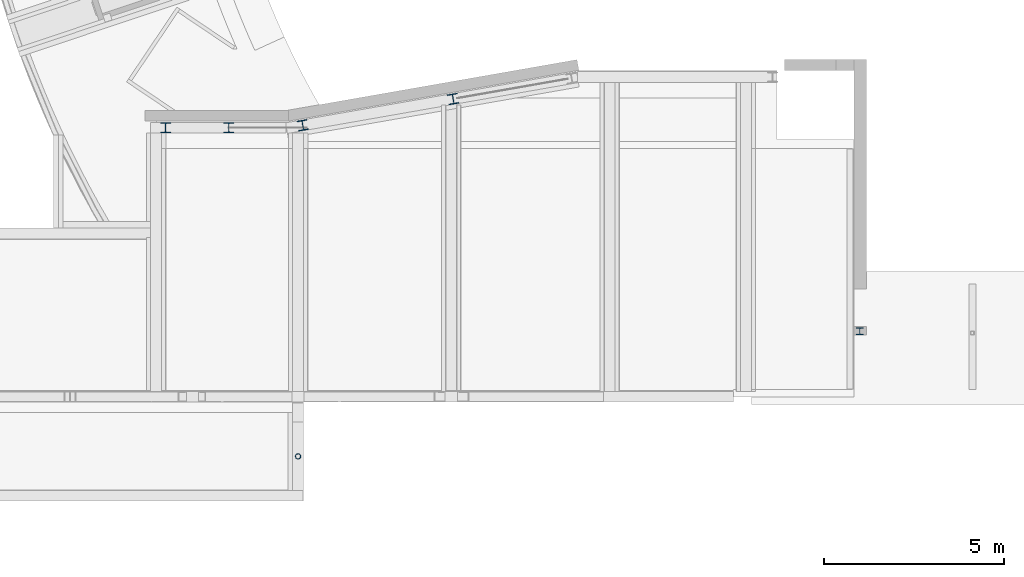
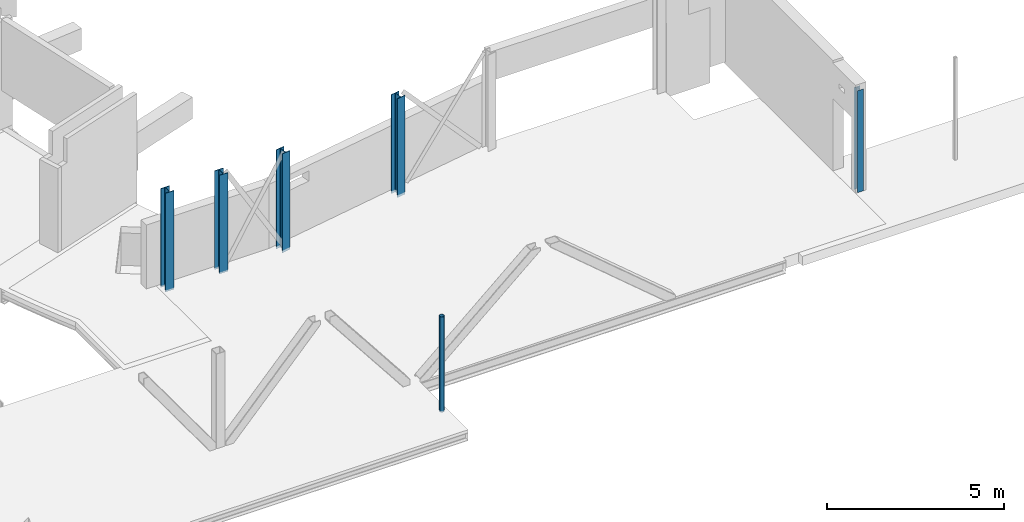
# One storey, part 6 of 37: 6 columns.
"""IFC2X3 building model written with IfcOpenShell, lengths in millimetres."""

from ifc_helpers import new_model, entity, si_unit, converted_unit, derived_unit, direction, frame, frame_2d, origin, origin_2d_with_axis, place, context, subcontext, project, spatial, hollow_circle, i_section, extrude, source, transform, mapped, material, type_object, type_shapes, element, save


model = new_model("IFC2X3")

# Units and contexts
model_context = context("Model", 3, precision=0.01, world=origin(), true_north=direction((6.12303176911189e-17, 1.0)))
body_context = subcontext(model_context, "Body", "Model", "MODEL_VIEW")
ifc_project = project(units=[si_unit("LENGTHUNIT", "METRE", prefix="MILLI"), si_unit("AREAUNIT", "SQUARE_METRE", prefix="MILLI"), si_unit("VOLUMEUNIT", "CUBIC_METRE"), converted_unit("PLANEANGLEUNIT", "DEGREE", entity("IfcRatioMeasure", 0.0174532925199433), si_unit("PLANEANGLEUNIT", "RADIAN"), dimensions=[0, 0, 0, 0, 0, 0, 0]), si_unit("MASSUNIT", "GRAM", prefix="KILO"), derived_unit("MASSDENSITYUNIT", [(si_unit("MASSUNIT", "GRAM", prefix="KILO"), 1), (si_unit("LENGTHUNIT", "METRE"), -3)]), derived_unit("MOMENTOFINERTIAUNIT", [(si_unit("LENGTHUNIT", "METRE"), 4)]), si_unit("TIMEUNIT", "SECOND"), si_unit("FREQUENCYUNIT", "HERTZ"), si_unit("THERMODYNAMICTEMPERATUREUNIT", "DEGREE_CELSIUS"), derived_unit("THERMALTRANSMITTANCEUNIT", [(si_unit("MASSUNIT", "GRAM", prefix="KILO"), 1), (si_unit("THERMODYNAMICTEMPERATUREUNIT", "KELVIN"), -1), (si_unit("TIMEUNIT", "SECOND"), -3)]), derived_unit("VOLUMETRICFLOWRATEUNIT", [(si_unit("LENGTHUNIT", "METRE"), 3), (si_unit("TIMEUNIT", "SECOND"), -1)]), si_unit("ELECTRICCURRENTUNIT", "AMPERE"), si_unit("ELECTRICVOLTAGEUNIT", "VOLT"), si_unit("POWERUNIT", "WATT"), si_unit("FORCEUNIT", "NEWTON", prefix="KILO"), si_unit("ILLUMINANCEUNIT", "LUX"), si_unit("LUMINOUSFLUXUNIT", "LUMEN"), si_unit("LUMINOUSINTENSITYUNIT", "CANDELA"), derived_unit("USERDEFINED", [(si_unit("MASSUNIT", "GRAM", prefix="KILO"), -1), (si_unit("LENGTHUNIT", "METRE"), -2), (si_unit("TIMEUNIT", "SECOND"), 3), (si_unit("LUMINOUSFLUXUNIT", "LUMEN"), 1)]), derived_unit("LINEARVELOCITYUNIT", [(si_unit("LENGTHUNIT", "METRE"), 1), (si_unit("TIMEUNIT", "SECOND"), -1)]), si_unit("PRESSUREUNIT", "PASCAL"), derived_unit("USERDEFINED", [(si_unit("LENGTHUNIT", "METRE"), -2), (si_unit("MASSUNIT", "GRAM", prefix="KILO"), 1), (si_unit("TIMEUNIT", "SECOND"), -2)]), derived_unit("LINEARFORCEUNIT", [(si_unit("MASSUNIT", "GRAM", prefix="KILO"), 1), (si_unit("LENGTHUNIT", "METRE"), 1), (si_unit("TIMEUNIT", "SECOND"), -2), (si_unit("LENGTHUNIT", "METRE"), -1)]), derived_unit("PLANARFORCEUNIT", [(si_unit("MASSUNIT", "GRAM", prefix="KILO"), 1), (si_unit("LENGTHUNIT", "METRE"), 1), (si_unit("TIMEUNIT", "SECOND"), -2), (si_unit("LENGTHUNIT", "METRE"), -2)])], contexts=[model_context])

# Site, building, storey
site_placement = place(None, origin())
site = spatial("IfcSite", under=ifc_project, at=site_placement, Name="Theater aan de Parade", CompositionType="ELEMENT")
building_placement = place(site_placement, origin())
building = spatial("IfcBuilding", under=site, at=building_placement, Name="Theater aan de Parade", CompositionType="ELEMENT")
storey_placement = place(building_placement, frame((0.0, 0.0, 5020.0)))
storey = spatial("IfcBuildingStorey", under=building, at=storey_placement, Name="01 eerste verdieping", CompositionType="ELEMENT", Elevation=5020.0)

# Columns
ifc_material = material(Name="00_PBT_MAT_staal_S355")
column_type_1 = type_object("IfcColumnType", Name="28_PBT_SC_staal_H-profiel:S355_HE280B", PredefinedType="COLUMN", material=ifc_material)
shared_shape_1 = source(origin(), body_context, "Body", "SweptSolid", [
    extrude(i_section(OverallWidth=279.999999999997, OverallDepth=279.999999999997, WebThickness=10.4999999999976, FlangeThickness=18.0000000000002, FilletRadius=24.0000000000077, at=frame_2d((0.0, 4.32009983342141e-12), x_axis=(0.0, 1.0))), frame((49946.4713059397, 20445.0, 4880.0), z_axis=(0.0, 0.0, 1.0), x_axis=(0.0, -1.0, 0.0)), (0.0, 0.0, 1.0), 3410.0),
])
type_shapes(column_type_1, [shared_shape_1])
column_1_placement = place(storey_placement, frame((0.0, 0.0, -5020.0)))
element("IfcColumn", 1, at=column_1_placement, inside=storey, type_object=column_type_1, material=ifc_material, Name="28_PBT_SC_staal_H-profiel:S355_HE280B", ObjectType="28_PBT_SC_staal_H-profiel:S355_HE280B", context=body_context, shape_type="MappedRepresentation", body=[
    mapped(shared_shape_1, transform((0.0, 0.0, 0.0), scale=1.0)),
])
column_type_2 = type_object("IfcColumnType", Name="28_PBT_SC_staal_H-profiel:S355_HE280B", PredefinedType="COLUMN", material=ifc_material)
shared_shape_2 = source(origin(), body_context, "Body", "SweptSolid", [
    extrude(i_section(OverallWidth=279.999999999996, OverallDepth=280.000000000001, WebThickness=10.5000000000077, FlangeThickness=18.0, FilletRadius=24.0000000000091, at=frame_2d((7.38964445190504e-13, 4.2774672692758e-12), x_axis=(1.0, 0.0))), frame((56193.2454552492, 21244.1973974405, 4855.0), z_axis=(0.0, 0.0, 1.0), x_axis=(-0.985030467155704, -0.172380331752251, 0.0)), (0.0, 0.0, 1.0), 3418.0),
])
type_shapes(column_type_2, [shared_shape_2])
column_2_placement = place(storey_placement, frame((0.0, 0.0, -5020.0)))
element("IfcColumn", 2, at=column_2_placement, inside=storey, type_object=column_type_2, material=ifc_material, Name="28_PBT_SC_staal_H-profiel:S355_HE280B", ObjectType="28_PBT_SC_staal_H-profiel:S355_HE280B", context=body_context, shape_type="MappedRepresentation", body=[
    mapped(shared_shape_2, transform((0.0, 0.0, 0.0), scale=1.0)),
])
column_type_3 = type_object("IfcColumnType", Name="28_PBT_SC_staal_H-profiel:S355_HE280B", PredefinedType="COLUMN", material=ifc_material)
shared_shape_3 = source(origin(), body_context, "Body", "SweptSolid", [
    extrude(i_section(OverallWidth=279.999999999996, OverallDepth=280.000000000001, WebThickness=10.5000000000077, FlangeThickness=18.0, FilletRadius=24.0000000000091, at=frame_2d((8.5265128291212e-12, -1.49213974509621e-12), x_axis=(1.0, 0.0))), frame((52005.6821149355, 20511.3738128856, 4855.0), z_axis=(0.0, 0.0, 1.0), x_axis=(-0.985030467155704, -0.172380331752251, 0.0)), (0.0, 0.0, 1.0), 3418.0),
])
type_shapes(column_type_3, [shared_shape_3])
column_3_placement = place(storey_placement, frame((0.0, 0.0, -5020.0)))
element("IfcColumn", 3, at=column_3_placement, inside=storey, type_object=column_type_3, material=ifc_material, Name="28_PBT_SC_staal_H-profiel:S355_HE280B", ObjectType="28_PBT_SC_staal_H-profiel:S355_HE280B", context=body_context, shape_type="MappedRepresentation", body=[
    mapped(shared_shape_3, transform((0.0, 0.0, 0.0), scale=1.0)),
])
column_type_4 = type_object("IfcColumnType", Name="28_PBT_SC_staal_H-profiel:S355_HE280B", PredefinedType="COLUMN", material=ifc_material)
shared_shape_4 = source(origin(), body_context, "Body", "SweptSolid", [
    extrude(i_section(OverallWidth=279.999999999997, OverallDepth=279.999999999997, WebThickness=10.4999999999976, FlangeThickness=18.0000000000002, FilletRadius=24.0000000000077, at=frame_2d((0.0, 4.32009983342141e-12), x_axis=(0.0, 1.0))), frame((48186.4713059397, 20445.0, 4880.0), z_axis=(0.0, 0.0, 1.0), x_axis=(0.0, -1.0, 0.0)), (0.0, 0.0, 1.0), 3410.0),
])
type_shapes(column_type_4, [shared_shape_4])
column_4_placement = place(storey_placement, frame((0.0, 0.0, -5020.0)))
element("IfcColumn", 4, at=column_4_placement, inside=storey, type_object=column_type_4, material=ifc_material, Name="28_PBT_SC_staal_H-profiel:S355_HE280B", ObjectType="28_PBT_SC_staal_H-profiel:S355_HE280B", context=body_context, shape_type="MappedRepresentation", body=[
    mapped(shared_shape_4, transform((0.0, 0.0, 0.0), scale=1.0)),
])
column_type_5 = type_object("IfcColumnType", Name="28_PBT_SC_staal_H-profiel:S355_HE200B", PredefinedType="COLUMN", material=ifc_material)
shared_shape_5 = source(origin(), body_context, "Body", "SweptSolid", [
    extrude(i_section(OverallWidth=199.999999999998, OverallDepth=200.0, WebThickness=8.99999999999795, FlangeThickness=15.0000000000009, FilletRadius=17.9999999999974, at=frame_2d((1.08713038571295e-12, 4.33431068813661e-12), x_axis=(0.0, 1.0))), frame((67516.0563479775, 14780.0, 4940.0), z_axis=(0.0, 0.0, 1.0), x_axis=(0.0, -1.0, 0.0)), (0.0, 0.0, 1.0), 3520.0),
])
type_shapes(column_type_5, [shared_shape_5])
column_5_placement = place(storey_placement, frame((0.0, 0.0, -5020.0)))
element("IfcColumn", 5, at=column_5_placement, inside=storey, type_object=column_type_5, material=ifc_material, Name="28_PBT_SC_staal_H-profiel:S355_HE200B", ObjectType="28_PBT_SC_staal_H-profiel:S355_HE200B", context=body_context, shape_type="MappedRepresentation", body=[
    mapped(shared_shape_5, transform((0.0, 0.0, 0.0), scale=1.0)),
])
column_type_6 = type_object("IfcColumnType", Name="28_PBT_SC_staal_buis:S355_B152.4x10", PredefinedType="COLUMN", material=ifc_material)
shared_shape_6 = source(origin(), body_context, "Body", "SweptSolid", [
    extrude(hollow_circle(Radius=76.2, WallThickness=10.0, at=origin_2d_with_axis()), frame((51875.3051596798, 11295.339144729, 4895.0), z_axis=(0.0, 0.0, 1.0), x_axis=(-1.0, 0.0, 0.0)), (0.0, 0.0, 1.0), 3295.0),
])
type_shapes(column_type_6, [shared_shape_6])
column_6_placement = place(storey_placement, frame((0.0, 0.0, -5020.0)))
element("IfcColumn", 6, at=column_6_placement, inside=storey, type_object=column_type_6, material=ifc_material, Name="28_PBT_SC_staal_buis:S355_B152.4x10", ObjectType="28_PBT_SC_staal_buis:S355_B152.4x10", context=body_context, shape_type="MappedRepresentation", body=[
    mapped(shared_shape_6, transform((0.0, 0.0, 0.0), scale=1.0)),
])

save(model, "model.ifc")
